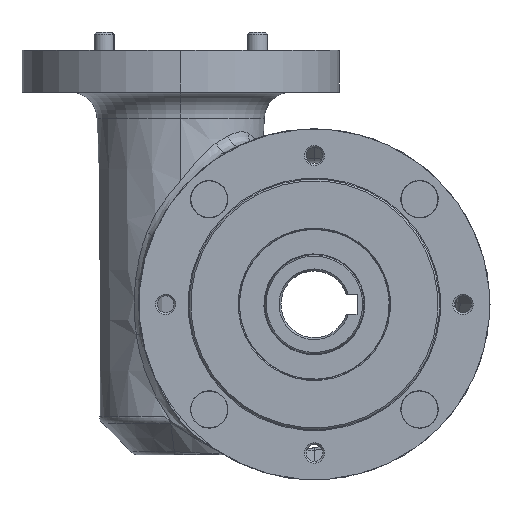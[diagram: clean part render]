
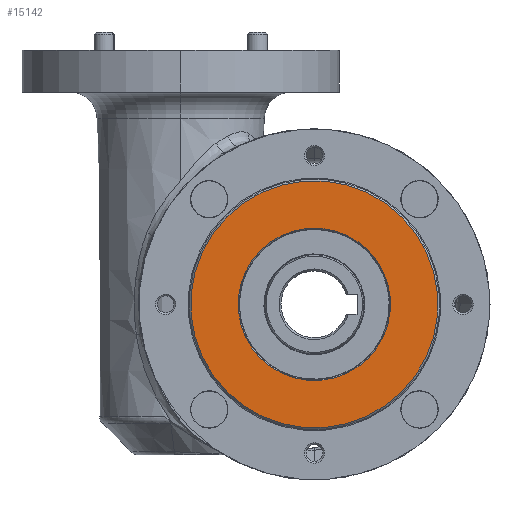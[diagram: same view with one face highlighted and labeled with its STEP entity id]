
A CAD part, left-side view. The second image highlights one B-rep face of the part: STEP entity #15142.
In plain terms, the highlighted planar face has unit normal (-1, 0, 0).
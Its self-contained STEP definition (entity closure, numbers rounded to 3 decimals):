
#1058 = AXIS2_PLACEMENT_3D ( 'NONE', #11987, #1689, #13711 ) ;
#1689 = DIRECTION ( 'NONE',  ( 1., 0., 0. ) ) ;
#2347 = CARTESIAN_POINT ( 'NONE',  ( -71.846, -11.003, 0. ) ) ;
#2719 = FACE_OUTER_BOUND ( 'NONE', #10472, .T. ) ;
#4122 = DIRECTION ( 'NONE',  ( 0., 0.707, -0.707 ) ) ;
#4399 = AXIS2_PLACEMENT_3D ( 'NONE', #9272, #9198, #9120 ) ;
#4405 = ORIENTED_EDGE ( 'NONE', *, *, #17524, .T. ) ;
#5552 = EDGE_CURVE ( 'NONE', #19558, #5774, #18967, .T. ) ;
#5774 = VERTEX_POINT ( 'NONE', #19166 ) ;
#6151 = EDGE_CURVE ( 'NONE', #15143, #12353, #6936, .T. ) ;
#6936 = CIRCLE ( 'NONE', #22470, 22.8 ) ;
#8568 = DIRECTION ( 'NONE',  ( 0., 0.707, -0.707 ) ) ;
#8592 = AXIS2_PLACEMENT_3D ( 'NONE', #2347, #14336, #4122 ) ;
#9120 = DIRECTION ( 'NONE',  ( 0., 0.707, -0.707 ) ) ;
#9198 = DIRECTION ( 'NONE',  ( -1., 0., 0. ) ) ;
#9272 = CARTESIAN_POINT ( 'NONE',  ( -71.846, -11.003, 0. ) ) ;
#9379 = CARTESIAN_POINT ( 'NONE',  ( -71.846, -27.125, 16.122 ) ) ;
#10472 = EDGE_LOOP ( 'NONE', ( #22282, #20352 ) ) ;
#11859 = FACE_BOUND ( 'NONE', #18472, .T. ) ;
#11987 = CARTESIAN_POINT ( 'NONE',  ( -71.846, -11.003, 0. ) ) ;
#12353 = VERTEX_POINT ( 'NONE', #9379 ) ;
#13386 = CARTESIAN_POINT ( 'NONE',  ( -71.846, 15.867, 26.87 ) ) ;
#13711 = DIRECTION ( 'NONE',  ( 0., 0.707, -0.707 ) ) ;
#14121 = EDGE_CURVE ( 'NONE', #5774, #19558, #15099, .T. ) ;
#14188 = CIRCLE ( 'NONE', #1058, 22.8 ) ;
#14286 = ORIENTED_EDGE ( 'NONE', *, *, #6151, .T. ) ;
#14336 = DIRECTION ( 'NONE',  ( -1., 0., 0. ) ) ;
#15099 = CIRCLE ( 'NONE', #8592, 37. ) ;
#15134 = CARTESIAN_POINT ( 'NONE',  ( -71.846, 15.16, -26.163 ) ) ;
#15143 = VERTEX_POINT ( 'NONE', #16979 ) ;
#15142 = ADVANCED_FACE ( 'NONE', ( #11859, #2719 ), #18740, .F. ) ;
#16742 = AXIS2_PLACEMENT_3D ( 'NONE', #13386, #20364, #8568 ) ;
#16979 = CARTESIAN_POINT ( 'NONE',  ( -71.846, 5.119, -16.122 ) ) ;
#17524 = EDGE_CURVE ( 'NONE', #12353, #15143, #14188, .T. ) ;
#18472 = EDGE_LOOP ( 'NONE', ( #4405, #14286 ) ) ;
#18740 = PLANE ( 'NONE',  #16742 ) ;
#18967 = CIRCLE ( 'NONE', #4399, 37. ) ;
#19166 = CARTESIAN_POINT ( 'NONE',  ( -71.846, -37.166, 26.163 ) ) ;
#19558 = VERTEX_POINT ( 'NONE', #15134 ) ;
#20352 = ORIENTED_EDGE ( 'NONE', *, *, #14121, .T. ) ;
#20364 = DIRECTION ( 'NONE',  ( 1., 0., 0. ) ) ;
#20617 = DIRECTION ( 'NONE',  ( 0., 0.707, -0.707 ) ) ;
#20692 = DIRECTION ( 'NONE',  ( 1., 0., 0. ) ) ;
#22018 = CARTESIAN_POINT ( 'NONE',  ( -71.846, -11.003, 0. ) ) ;
#22282 = ORIENTED_EDGE ( 'NONE', *, *, #5552, .T. ) ;
#22470 = AXIS2_PLACEMENT_3D ( 'NONE', #22018, #20692, #20617 ) ;
